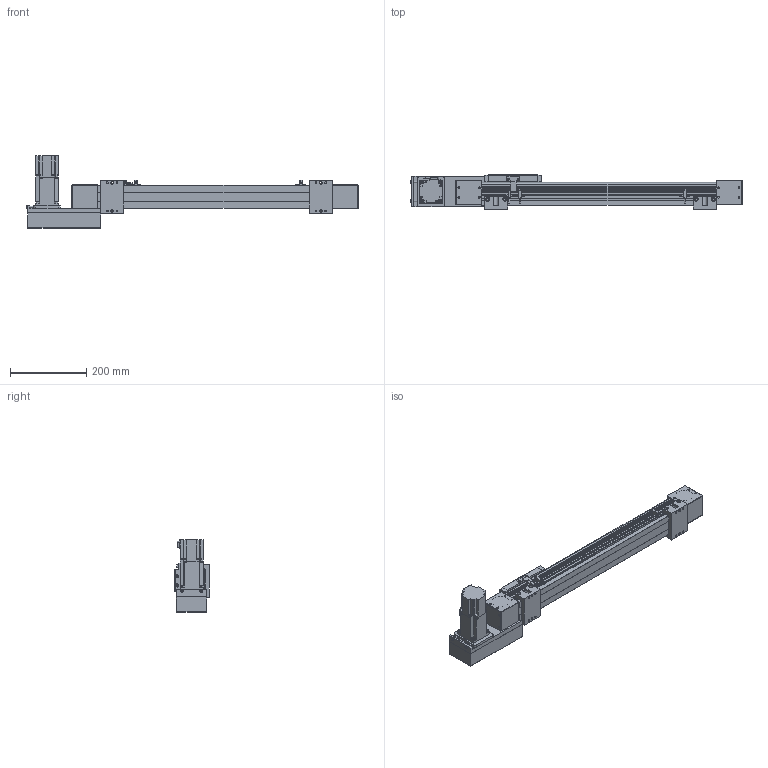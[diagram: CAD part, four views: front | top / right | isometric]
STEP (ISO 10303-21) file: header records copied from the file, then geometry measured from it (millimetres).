
FILE_DESCRIPTION(/* description */ ('STEP AP214'),/* implementation_level */ '2;1');
FILE_NAME(/* name */ 'SK60-P13-S450-L-T40-C1-N(0)',/* time_stamp */ '2023-04-06T04:04:02+02:00',/* author */ ('License CC BY-ND 4.0'),/* organization */ ('CADENAS'),/* preprocessor_version */ 'ST-DEVELOPER v19.3',/* originating_system */ 'PARTsolutions',/* authorisation */ ' ');
FILE_SCHEMA (('AUTOMOTIVE_DESIGN {1 0 10303 214 3 1 1}'));
Length unit declared in the file: millimetre
Products named in the file (10): SK60-P13-S450-L-T40-C1-N(0); PSC140-sensor; SK60-S450_seat; SK60-S450-BL-C1_slider; SK60_body3; SK60_body6; SK60-BL_body2; T40-p1; SK60-L_fb; SK60-S450-L-C1_body
Assembly tree (16 placements, depth 2):
  SK60-P13-S450-L-T40-C1-N(0)
    PSC140-sensor  x3
    SK60-S450_seat  x2
    SK60-S450-BL-C1_slider
    SK60_body3  x3
    SK60_body6  x2
    SK60-BL_body2  x2
    T40-p1
    SK60-L_fb
    SK60-S450-L-C1_body
Bounding box: 870.5 x 90 x 189.7 mm (x, y, z)
Volume: 3806199.2 mm3; surface area: 515223.4 mm2
Topology: 16 solids, 16 shells, 810 faces, 2048 edges, 1349 vertices
Faces by surface type: plane 524, cylinder 262, cone 22, torus 2
Full cylindrical faces by diameter (mm): 2.8 x3, 3.3 x4, 4 x2, 4.5 x30, 4.6 x3, 4.917 x16, 5 x6, 5.478 x4, 5.5 x19, 6.5 x4, 7 x2, 8 x4, 8.5 x4, 9.988 x4, 10 x8, 14 x1, 47 x3, 50 x2
Entity records: 18655 total; most frequent: DIRECTION 3184, CARTESIAN_POINT 3150, ORIENTED_EDGE 2940, EDGE_CURVE 1470, AXIS2_PLACEMENT_3D 1068, LINE 1048, VECTOR 1048, VERTEX_POINT 1034
